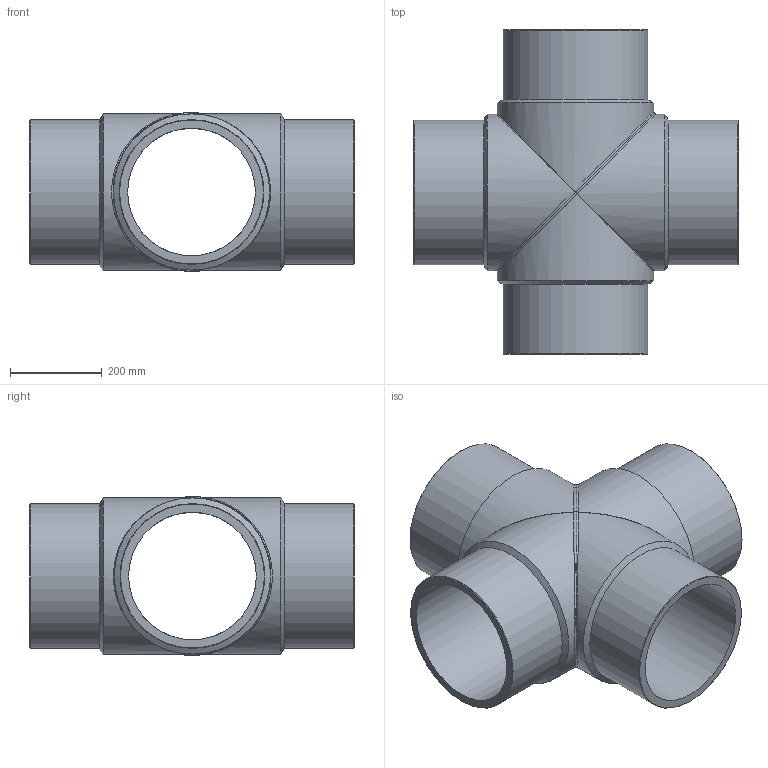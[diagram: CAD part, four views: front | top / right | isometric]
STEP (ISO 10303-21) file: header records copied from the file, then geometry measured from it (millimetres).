
FILE_DESCRIPTION(/* description */ ('Unknown'),/* implementation_level */ '2;1');
FILE_NAME(/* name */ 'CRP315B',/* time_stamp */ '2022-07-08T11:21:07+02:00',/* author */ ('Unknown'),/* organization */ ('Unknown'),/* preprocessor_version */ 'ST-DEVELOPER v18.102',/* originating_system */ 'Solid Edge',/* authorisation */ 'Unknown');
FILE_SCHEMA (('AUTOMOTIVE_DESIGN {1 0 10303 214 3 1 1}'));
Length unit declared in the file: millimetre
Products named in the file (3): CRP315B; CRP315B_mir
Assembly tree (2 placements, depth 2):
  CRP315B
    CRP315B
    CRP315B_mir
Bounding box: 706 x 706 x 344.99 mm (x, y, z)
Volume: 22794810.5 mm3; surface area: 2105389.8 mm2
Topology: 2 solids, 2 shells, 32 faces, 146 edges, 116 vertices
Faces by surface type: cylinder 12, cone 8, plane 6, bspline 6
Full cylindrical faces by diameter (mm): 277.6 x4, 315 x4, 340 x4
Entity records: 4189 total; most frequent: CARTESIAN_POINT 3181, ORIENTED_EDGE 232, DIRECTION 126, EDGE_CURVE 116, VERTEX_POINT 106, B_SPLINE_CURVE_WITH_KNOTS 82, AXIS2_PLACEMENT_3D 63, EDGE_LOOP 58
